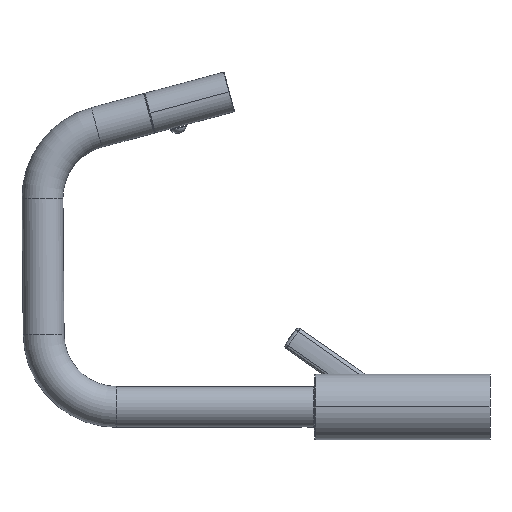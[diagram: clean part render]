
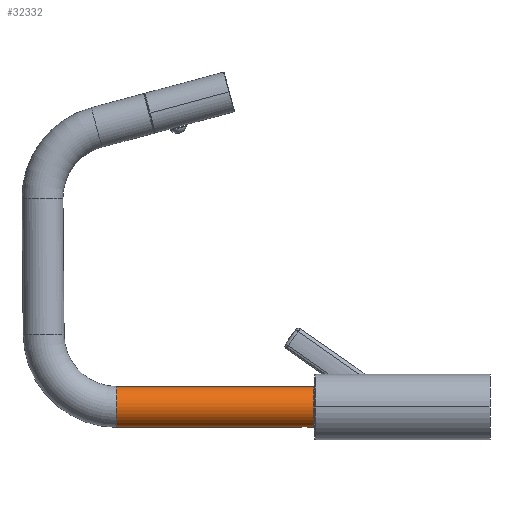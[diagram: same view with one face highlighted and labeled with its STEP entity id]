
A CAD part, left-side view. The second image highlights one B-rep face of the part: STEP entity #32332.
In plain terms, the highlighted cylindrical face has radius 14 mm (diameter 28 mm), a partial arc.
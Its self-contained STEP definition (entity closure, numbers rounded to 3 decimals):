
#29711=CARTESIAN_POINT('',(0.,123.694,-14.));
#29772=CARTESIAN_POINT('',(0.,130.194,-14.));
#29774=DIRECTION('',(0.,1.,0.));
#29775=VECTOR('',#29774,135.);
#29776=CARTESIAN_POINT('',(0.,120.444,14.));
#29777=LINE('',#29776,#29775);
#30530=CARTESIAN_POINT('',(0.,120.444,0.));
#30531=DIRECTION('',(0.,1.,0.));
#30532=DIRECTION('',(0.,0.,-1.));
#30533=AXIS2_PLACEMENT_3D('',#30530,#30531,#30532);
#30545=CARTESIAN_POINT('',(0.,130.194,-14.));
#30546=CARTESIAN_POINT('',(-0.057,130.194,-14.));
#30547=CARTESIAN_POINT('',(-0.171,130.191,
-13.999));
#30548=CARTESIAN_POINT('',(-0.342,130.177,
-13.996));
#30549=CARTESIAN_POINT('',(-0.512,130.155,
-13.991));
#30550=CARTESIAN_POINT('',(-0.681,130.123,
-13.984));
#30551=CARTESIAN_POINT('',(-0.848,130.083,
-13.975));
#30552=CARTESIAN_POINT('',(-1.013,130.033,
-13.964));
#30553=CARTESIAN_POINT('',(-1.176,129.975,
-13.951));
#30554=CARTESIAN_POINT('',(-1.336,129.908,
-13.936));
#30555=CARTESIAN_POINT('',(-1.492,129.833,
-13.921));
#30556=CARTESIAN_POINT('',(-1.644,129.749,
-13.903));
#30557=CARTESIAN_POINT('',(-1.793,129.657,
-13.885));
#30558=CARTESIAN_POINT('',(-1.936,129.556,
-13.866));
#30559=CARTESIAN_POINT('',(-2.073,129.449,
-13.846));
#30560=CARTESIAN_POINT('',(-2.205,129.333,
-13.825));
#30561=CARTESIAN_POINT('',(-2.33,129.211,
-13.805));
#30562=CARTESIAN_POINT('',(-2.449,129.083,
-13.784));
#30563=CARTESIAN_POINT('',(-2.561,128.948,
-13.764));
#30564=CARTESIAN_POINT('',(-2.665,128.807,
-13.744));
#30565=CARTESIAN_POINT('',(-2.761,128.661,
-13.725));
#30566=CARTESIAN_POINT('',(-2.849,128.511,
-13.707));
#30567=CARTESIAN_POINT('',(-2.929,128.357,
-13.69));
#30568=CARTESIAN_POINT('',(-3.,128.199,
-13.675));
#30569=CARTESIAN_POINT('',(-3.062,128.037,
-13.661));
#30570=CARTESIAN_POINT('',(-3.116,127.873,
-13.649));
#30571=CARTESIAN_POINT('',(-3.161,127.707,
-13.639));
#30572=CARTESIAN_POINT('',(-3.197,127.539,
-13.63));
#30573=CARTESIAN_POINT('',(-3.223,127.37,
-13.624));
#30574=CARTESIAN_POINT('',(-3.241,127.199,
-13.62));
#30575=CARTESIAN_POINT('',(-3.25,127.028,
-13.617));
#30576=CARTESIAN_POINT('',(-3.25,126.857,
-13.617));
#30577=CARTESIAN_POINT('',(-3.241,126.687,
-13.62));
#30578=CARTESIAN_POINT('',(-3.223,126.516,
-13.624));
#30579=CARTESIAN_POINT('',(-3.196,126.347,
-13.63));
#30580=CARTESIAN_POINT('',(-3.16,126.179,
-13.639));
#30581=CARTESIAN_POINT('',(-3.115,126.013,
-13.649));
#30582=CARTESIAN_POINT('',(-3.062,125.849,
-13.661));
#30583=CARTESIAN_POINT('',(-2.999,125.688,
-13.675));
#30584=CARTESIAN_POINT('',(-2.928,125.53,
-13.69));
#30585=CARTESIAN_POINT('',(-2.848,125.375,
-13.707));
#30586=CARTESIAN_POINT('',(-2.76,125.225,
-13.725));
#30587=CARTESIAN_POINT('',(-2.664,125.08,
-13.744));
#30588=CARTESIAN_POINT('',(-2.56,124.939,
-13.764));
#30589=CARTESIAN_POINT('',(-2.449,124.804,
-13.784));
#30590=CARTESIAN_POINT('',(-2.33,124.676,
-13.805));
#30591=CARTESIAN_POINT('',(-2.204,124.553,
-13.826));
#30592=CARTESIAN_POINT('',(-2.072,124.438,
-13.846));
#30593=CARTESIAN_POINT('',(-1.935,124.331,
-13.866));
#30594=CARTESIAN_POINT('',(-1.792,124.23,
-13.885));
#30595=CARTESIAN_POINT('',(-1.644,124.138,
-13.903));
#30596=CARTESIAN_POINT('',(-1.492,124.054,
-13.921));
#30597=CARTESIAN_POINT('',(-1.335,123.979,
-13.936));
#30598=CARTESIAN_POINT('',(-1.176,123.912,
-13.951));
#30599=CARTESIAN_POINT('',(-1.013,123.854,
-13.964));
#30600=CARTESIAN_POINT('',(-0.848,123.805,
-13.975));
#30601=CARTESIAN_POINT('',(-0.681,123.764,
-13.984));
#30602=CARTESIAN_POINT('',(-0.512,123.733,
-13.991));
#30603=CARTESIAN_POINT('',(-0.342,123.71,
-13.996));
#30604=CARTESIAN_POINT('',(-0.171,123.697,
-13.999));
#30605=CARTESIAN_POINT('',(-0.057,123.694,-14.));
#30606=CARTESIAN_POINT('',(0.,123.694,-14.));
#30608=DIRECTION('',(0.,1.,0.));
#30609=VECTOR('',#30608,125.25);
#30610=CARTESIAN_POINT('',(0.,130.194,-14.));
#30611=LINE('',#30610,#30609);
#30612=DIRECTION('',(0.,1.,0.));
#30613=VECTOR('',#30612,3.25);
#30614=CARTESIAN_POINT('',(0.,120.444,-14.));
#30615=LINE('',#30614,#30613);
#30616=CARTESIAN_POINT('',(0.,255.444,0.));
#30617=DIRECTION('',(0.,1.,0.));
#30618=DIRECTION('',(0.,0.,-1.));
#30619=AXIS2_PLACEMENT_3D('',#30616,#30617,#30618);
#31015=CARTESIAN_POINT('',(0.,120.444,14.));
#31016=CARTESIAN_POINT('',(0.,120.444,-14.));
#31017=VERTEX_POINT('',#31015);
#31018=VERTEX_POINT('',#31016);
#31019=CARTESIAN_POINT('',(0.,255.444,14.));
#31020=CARTESIAN_POINT('',(0.,255.444,-14.));
#31021=VERTEX_POINT('',#31019);
#31022=VERTEX_POINT('',#31020);
#31055=VERTEX_POINT('',#29711);
#31056=VERTEX_POINT('',#29772);
#32318=CARTESIAN_POINT('',(0.,120.444,0.));
#32319=DIRECTION('',(0.,1.,0.));
#32320=DIRECTION('',(0.,0.,1.));
#32321=AXIS2_PLACEMENT_3D('',#32318,#32319,#32320);
#32322=CYLINDRICAL_SURFACE('',#32321,14.);
#32323=ORIENTED_EDGE('',*,*,#31628,.F.);
#32324=ORIENTED_EDGE('',*,*,#31599,.T.);
#32326=ORIENTED_EDGE('',*,*,#32325,.T.);
#32327=ORIENTED_EDGE('',*,*,#31596,.F.);
#32328=ORIENTED_EDGE('',*,*,#32308,.F.);
#32329=ORIENTED_EDGE('',*,*,#31592,.T.);
#32330=EDGE_LOOP('',(#32323,#32324,#32326,#32327,#32328,#32329));
#32331=FACE_OUTER_BOUND('',#32330,.F.);
#32332=ADVANCED_FACE('',(#32331),#32322,.T.);
#30534=CIRCLE('',#30533,14.);
#30607=B_SPLINE_CURVE_WITH_KNOTS('',3,(#30545,#30546,#30547,#30548,#30549,
#30550,#30551,#30552,#30553,#30554,#30555,#30556,#30557,#30558,#30559,#30560,
#30561,#30562,#30563,#30564,#30565,#30566,#30567,#30568,#30569,#30570,#30571,
#30572,#30573,#30574,#30575,#30576,#30577,#30578,#30579,#30580,#30581,#30582,
#30583,#30584,#30585,#30586,#30587,#30588,#30589,#30590,#30591,#30592,#30593,
#30594,#30595,#30596,#30597,#30598,#30599,#30600,#30601,#30602,#30603,#30604,
#30605,#30606),.UNSPECIFIED.,.F.,.F.,(4,1,1,1,1,1,1,1,1,1,1,1,1,1,1,1,1,1,1,1,1,
1,1,1,1,1,1,1,1,1,1,1,1,1,1,1,1,1,1,1,1,1,1,1,1,1,1,1,1,1,1,1,1,1,1,1,1,1,1,4),(
0.,0.017,0.034,0.051,0.068,
0.085,0.102,0.119,0.136,
0.153,0.169,0.186,0.203,
0.22,0.237,0.254,0.271,
0.288,0.305,0.322,0.339,
0.356,0.373,0.39,0.407,
0.424,0.441,0.458,0.475,
0.492,0.508,0.525,0.542,
0.559,0.576,0.593,0.61,
0.627,0.644,0.661,0.678,
0.695,0.712,0.729,0.746,
0.763,0.78,0.797,0.814,
0.831,0.847,0.864,0.881,
0.898,0.915,0.932,0.949,
0.966,0.983,1.),.UNSPECIFIED.);
#30620=CIRCLE('',#30619,14.);
#31592=EDGE_CURVE('',#31018,#31055,#30615,.T.);
#31596=EDGE_CURVE('',#31017,#31021,#29777,.T.);
#31599=EDGE_CURVE('',#31056,#31022,#30611,.T.);
#31628=EDGE_CURVE('',#31056,#31055,#30607,.T.);
#32308=EDGE_CURVE('',#31018,#31017,#30534,.T.);
#32325=EDGE_CURVE('',#31022,#31021,#30620,.T.);
